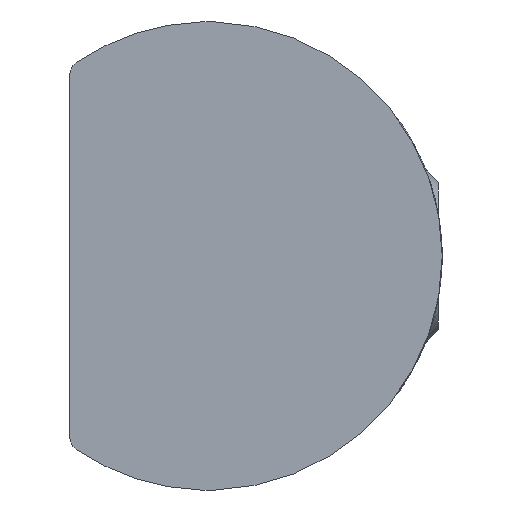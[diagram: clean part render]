
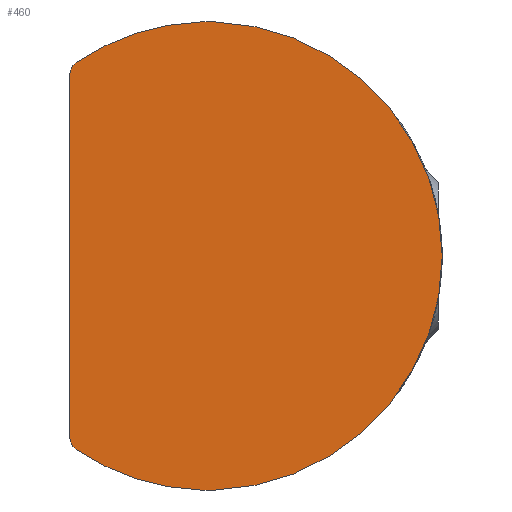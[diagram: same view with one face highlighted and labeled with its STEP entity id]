
A CAD part, left-side view. The second image highlights one B-rep face of the part: STEP entity #460.
In plain terms, the highlighted planar face has unit normal (-1, 0, 0).
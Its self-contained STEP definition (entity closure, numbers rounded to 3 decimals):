
#27=PLANE('',#517);
#55=LINE('',#770,#88);
#56=LINE('',#772,#89);
#57=LINE('',#773,#90);
#88=VECTOR('',#603,1000.);
#89=VECTOR('',#606,1000.);
#90=VECTOR('',#607,1000.);
#139=ORIENTED_EDGE('',*,*,#234,.F.);
#140=ORIENTED_EDGE('',*,*,#251,.F.);
#141=ORIENTED_EDGE('',*,*,#227,.F.);
#142=ORIENTED_EDGE('',*,*,#252,.F.);
#143=ORIENTED_EDGE('',*,*,#242,.F.);
#144=ORIENTED_EDGE('',*,*,#239,.F.);
#145=ORIENTED_EDGE('',*,*,#250,.F.);
#146=ORIENTED_EDGE('',*,*,#245,.F.);
#227=EDGE_CURVE('',#285,#286,#328,.T.);
#234=EDGE_CURVE('',#292,#293,#331,.T.);
#239=EDGE_CURVE('',#297,#295,#333,.T.);
#242=EDGE_CURVE('',#295,#298,#335,.T.);
#245=EDGE_CURVE('',#293,#301,#337,.T.);
#250=EDGE_CURVE('',#301,#297,#55,.T.);
#251=EDGE_CURVE('',#286,#292,#56,.T.);
#252=EDGE_CURVE('',#298,#285,#57,.F.);
#285=VERTEX_POINT('',#705);
#286=VERTEX_POINT('',#706);
#292=VERTEX_POINT('',#737);
#293=VERTEX_POINT('',#739);
#295=VERTEX_POINT('',#744);
#297=VERTEX_POINT('',#748);
#298=VERTEX_POINT('',#752);
#301=VERTEX_POINT('',#759);
#328=CIRCLE('',#500,3.175);
#331=CIRCLE('',#504,3.175);
#333=CIRCLE('',#507,0.2);
#335=CIRCLE('',#510,3.175);
#337=CIRCLE('',#513,0.2);
#361=EDGE_LOOP('',(#139,#140,#141,#142,#143,#144,#145,#146));
#408=FACE_BOUND('',#361,.T.);
#460=ADVANCED_FACE('',(#408),#27,.F.);
#500=AXIS2_PLACEMENT_3D('',#704,#559,#560);
#504=AXIS2_PLACEMENT_3D('',#738,#570,#571);
#507=AXIS2_PLACEMENT_3D('',#749,#579,#580);
#510=AXIS2_PLACEMENT_3D('',#755,#586,#587);
#513=AXIS2_PLACEMENT_3D('',#761,#593,#594);
#517=AXIS2_PLACEMENT_3D('',#771,#604,#605);
#559=DIRECTION('',(1.,0.,0.));
#560=DIRECTION('',(0.,0.,-1.));
#570=DIRECTION('',(1.,0.,0.));
#571=DIRECTION('',(0.,0.,-1.));
#579=DIRECTION('',(1.,0.,0.));
#580=DIRECTION('',(0.,0.,-1.));
#586=DIRECTION('',(1.,0.,0.));
#587=DIRECTION('',(0.,0.,-1.));
#593=DIRECTION('',(1.,0.,0.));
#594=DIRECTION('',(0.,0.,-1.));
#603=DIRECTION('',(0.,0.,1.));
#604=DIRECTION('',(1.,0.,0.));
#605=DIRECTION('',(0.,0.,-1.));
#606=DIRECTION('',(0.,1.,0.));
#607=DIRECTION('',(0.,1.,0.));
#704=CARTESIAN_POINT('',(-32.,-0.1,0.));
#705=CARTESIAN_POINT('',(-32.,-0.198,3.174));
#706=CARTESIAN_POINT('',(-32.,-0.198,-3.174));
#737=CARTESIAN_POINT('',(-32.,-0.002,-3.174));
#738=CARTESIAN_POINT('',(-32.,-0.1,0.));
#739=CARTESIAN_POINT('',(-32.,1.688,-2.624));
#744=CARTESIAN_POINT('',(-32.,1.688,2.624));
#748=CARTESIAN_POINT('',(-32.,1.775,2.459));
#749=CARTESIAN_POINT('',(-32.,1.575,2.459));
#752=CARTESIAN_POINT('',(-32.,-0.002,3.174));
#755=CARTESIAN_POINT('',(-32.,-0.1,0.));
#759=CARTESIAN_POINT('',(-32.,1.775,-2.459));
#761=CARTESIAN_POINT('',(-32.,1.575,-2.459));
#770=CARTESIAN_POINT('',(-32.,1.775,-2.459));
#771=CARTESIAN_POINT('',(-32.,1.575,2.459));
#772=CARTESIAN_POINT('',(-32.,5.,-3.174));
#773=CARTESIAN_POINT('',(-32.,5.,3.174));
